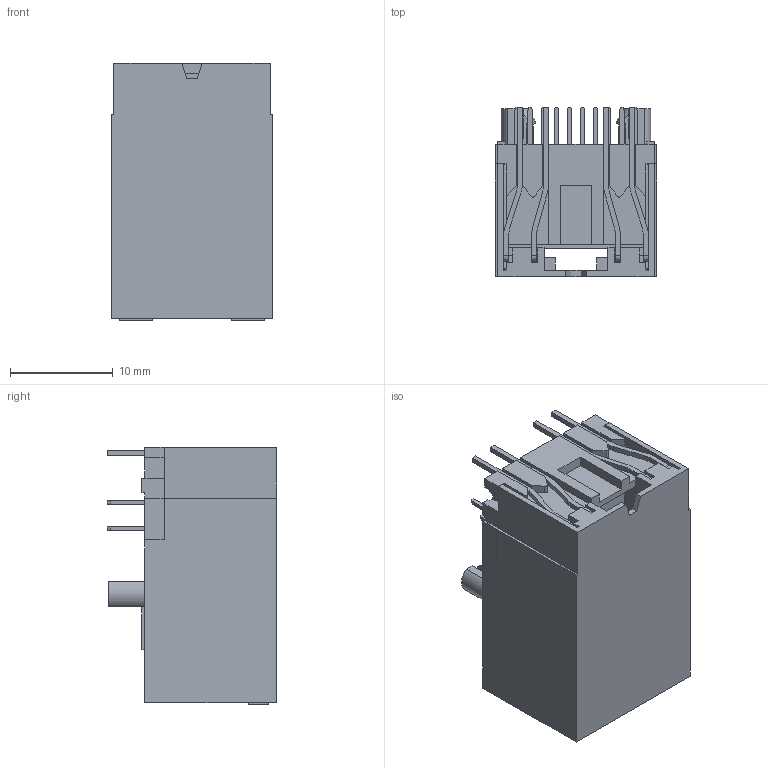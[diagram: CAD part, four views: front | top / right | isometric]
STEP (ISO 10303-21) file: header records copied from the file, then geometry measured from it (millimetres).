
FILE_DESCRIPTION((''),'2;1');
FILE_NAME('DGKYD311B083JB2A4DN_ASM','2024-09-23T13:53:24',('DGKYD'),(''),'CREO PARAMETRIC BY PTC INC, 2019010','CREO PARAMETRIC BY PTC INC, 2019010','');
FILE_SCHEMA(('CONFIG_CONTROL_DESIGN'));
Length unit declared in the file: millimetre
Products named in the file (23): MSBR-21_1; MSBR-20_1; MSBR-19_1; MSBR-18_1; MSBR-17_1; MSBR-16_1; MSBR-15_1; MSBR-14_1; MSBR-13_1; MSBR-12_1; MSBR-11_1; MSBR-10_1; MSBR-9_1; MSBR-8_1; MSBR-7_1; MSBR-6_1; MSBR-5_1; MSBR-4_1; MSBR-3_1; MSBR-2_1; MSBR-1_1; DGKYD311B083DB2A4DN_ASM_1_ASM; DGKYD311B083JB2A4DN_ASM
Assembly tree (24 placements, depth 3):
  DGKYD311B083JB2A4DN_ASM
    DGKYD311B083DB2A4DN_ASM_1_ASM
      MSBR-21_1
      MSBR-20_1
      MSBR-19_1
      MSBR-18_1
      MSBR-17_1
      MSBR-16_1
      MSBR-15_1
      MSBR-14_1
      MSBR-13_1
      MSBR-12_1
      MSBR-11_1
      MSBR-10_1
      MSBR-9_1
      MSBR-8_1
      MSBR-7_1
      MSBR-6_1
      MSBR-5_1
      MSBR-4_1
      MSBR-3_1
      MSBR-2_1
      MSBR-1_1
    MSBR-10_1
    MSBR-14_1
Bounding box: 15.7 x 16.42 x 25 mm (x, y, z)
Volume: 2466.2 mm3; surface area: 6103.4 mm2
Topology: 23 solids, 23 shells, 1495 faces, 4334 edges, 2844 vertices
Faces by surface type: plane 1222, cylinder 243, extrusion 12, torus 8, sphere 8, cone 2
Entity records: 47098 total; most frequent: CARTESIAN_POINT 9029, ORIENTED_EDGE 8156, DIRECTION 7434, EDGE_CURVE 4078, VECTOR 3520, LINE 3508, VERTEX_POINT 2680, AXIS2_PLACEMENT_3D 1957
